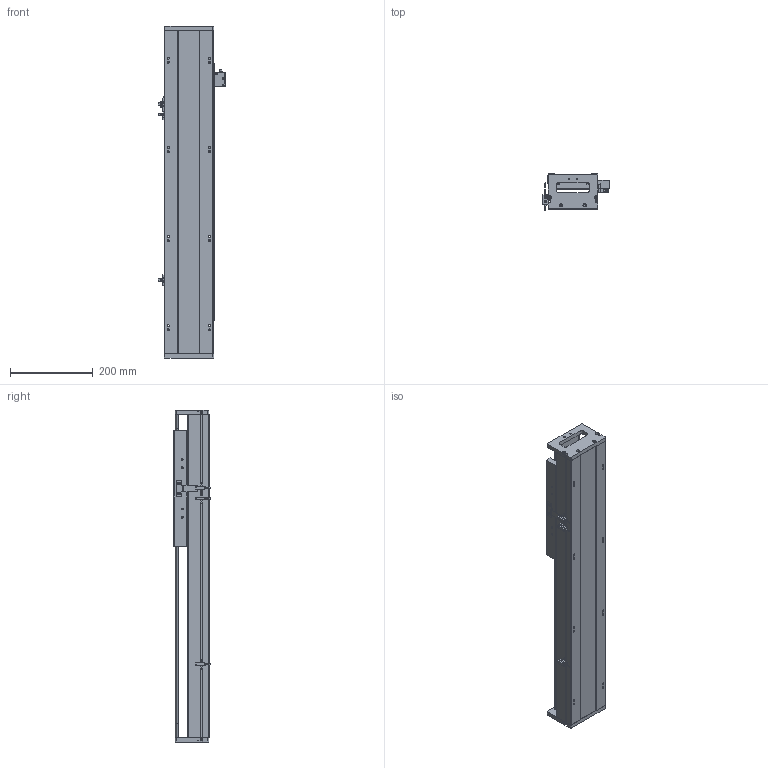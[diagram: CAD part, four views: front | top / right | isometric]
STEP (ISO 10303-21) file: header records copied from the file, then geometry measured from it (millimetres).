
FILE_DESCRIPTION (( 'STEP AP203' ), '1' );
FILE_NAME ('SKR12S-C2-S424（简）.STEP', '2022-09-26T03:20:18', ( '' ), ( '' ), 'SwSTEP 2.0', 'SolidWorks 2018', '' );
FILE_SCHEMA (( 'CONFIG_CONTROL_DESIGN' ));
Length unit declared in the file: millimetre
Products named in the file (8): SKR12S-C2-S424（简）; EE-SX672; SKR12菁釱-C2-S424(潠); 棠掑假蚾輸; SKR12滑台-280L（简）; SIKO棠掑; 覜茼え; SKR12耜啣
Assembly tree (10 placements, depth 2):
  SKR12S-C2-S424（简）
    SKR12菁釱-C2-S424(潠)
    SKR12滑台-280L（简）
    SKR12耜啣  x2
    棠掑假蚾輸
    SIKO棠掑
    EE-SX672  x3
    覜茼え
Bounding box: 162.7 x 87.3 x 804 mm (x, y, z)
Volume: 4065947.2 mm3; surface area: 671156.8 mm2
Topology: 11 solids, 11 shells, 932 faces, 2467 edges, 1561 vertices
Faces by surface type: cylinder 414, plane 392, cone 126
Entity records: 24869 total; most frequent: CARTESIAN_POINT 4763, DIRECTION 4167, ORIENTED_EDGE 3914, EDGE_CURVE 1957, AXIS2_PLACEMENT_3D 1533, VERTEX_POINT 1265, VECTOR 1101, LINE 1101
